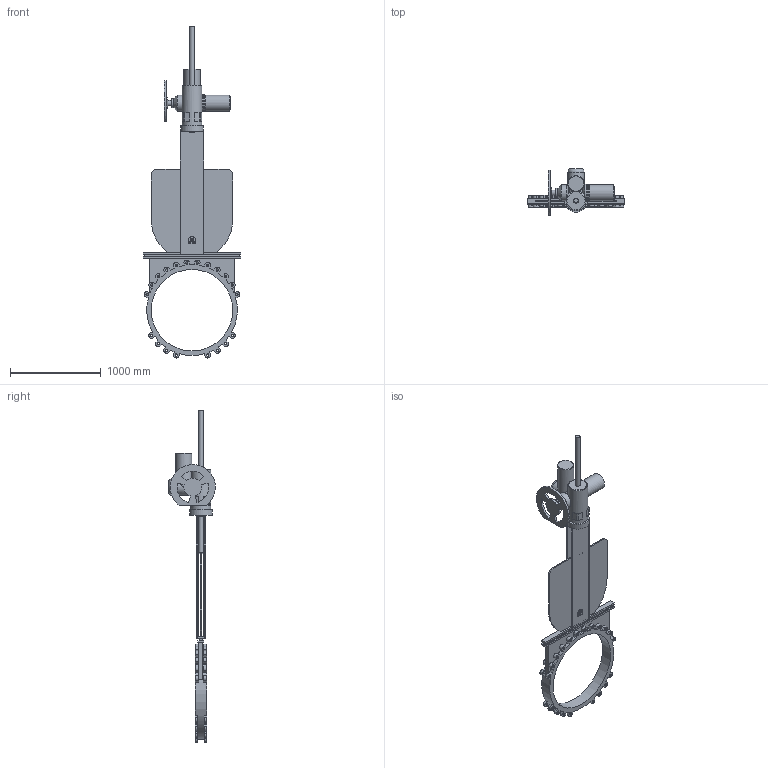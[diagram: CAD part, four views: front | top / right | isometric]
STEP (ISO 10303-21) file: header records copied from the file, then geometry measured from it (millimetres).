
FILE_DESCRIPTION(('STEP AP203'), '1');
FILE_NAME('K21GVA_DN900+MT903.A 80', '', ('UNSPECIFIED'), ('UNSPECIFIED'), 'ASCON STEP Converter 1.6', 'ASCON Math Kernel', '');
FILE_SCHEMA(('CONFIG_CONTROL_DESIGN'));
Length unit declared in the file: millimetre
Bounding box: 1075 x 516.46 x 3667.95 mm (x, y, z)
Volume: 97635295.6 mm3; surface area: 6933154.6 mm2
Topology: 1 solids, 2 shells, 497 faces, 1359 edges, 891 vertices
Faces by surface type: plane 238, cylinder 216, cone 42, torus 1
Full cylindrical faces by diameter (mm): 13.835 x8, 18 x8, 26.211 x40, 52 x2, 60 x1, 80 x1, 100 x1, 140 x2, 180 x4, 187 x1, 191 x1, 220 x1, 250 x1, 900 x1, 1001 x1
Entity records: 20102 total; most frequent: CARTESIAN_POINT 3634, DIRECTION 2720, ORIENTED_EDGE 2422, EDGE_CURVE 1211, AXIS2_PLACEMENT_3D 1034, VERTEX_POINT 858, EDGE_LOOP 677, LINE 652
